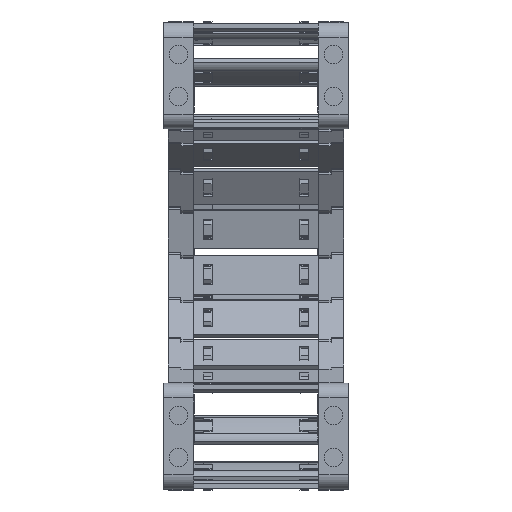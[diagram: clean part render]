
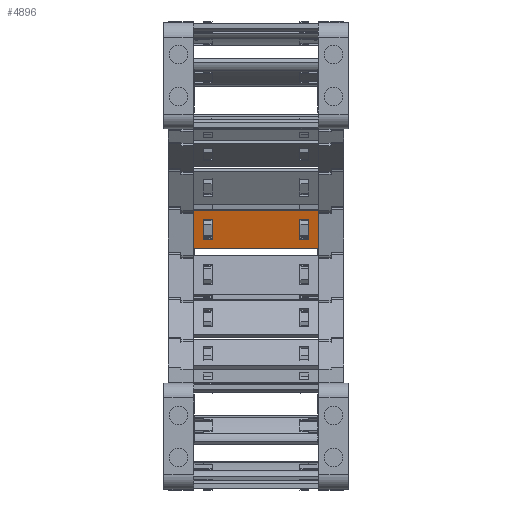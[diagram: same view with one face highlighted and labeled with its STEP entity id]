
A CAD part, left-side view. The second image highlights one B-rep face of the part: STEP entity #4896.
In plain terms, the highlighted planar face has unit normal (-0.976, 0, -0.216) as drawn and (0, 1, 0) by its records, which use the part's own axes.
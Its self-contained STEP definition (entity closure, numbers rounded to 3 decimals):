
#4022=DIRECTION('',(0.,0.,1.));
#4023=VECTOR('',#4022,15.8);
#4024=CARTESIAN_POINT('',(35.74,1.5,-7.9));
#4025=LINE('',#4024,#4023);
#4029=DIRECTION('',(-1.,0.,0.));
#4030=VECTOR('',#4029,50.5);
#4031=CARTESIAN_POINT('',(35.74,1.5,7.9));
#4032=LINE('',#4031,#4030);
#4036=DIRECTION('',(0.,0.,-1.));
#4037=VECTOR('',#4036,15.8);
#4038=CARTESIAN_POINT('',(-14.76,1.5,7.9));
#4039=LINE('',#4038,#4037);
#4043=DIRECTION('',(1.,0.,0.));
#4044=VECTOR('',#4043,3.648);
#4045=CARTESIAN_POINT('',(28.122,1.5,4.075));
#4046=LINE('',#4045,#4044);
#4050=DIRECTION('',(0.,0.,-1.));
#4051=VECTOR('',#4050,8.15);
#4052=CARTESIAN_POINT('',(31.77,1.5,4.075));
#4053=LINE('',#4052,#4051);
#4057=DIRECTION('',(-1.,0.,0.));
#4058=VECTOR('',#4057,3.648);
#4059=CARTESIAN_POINT('',(31.77,1.5,-4.075));
#4060=LINE('',#4059,#4058);
#4064=DIRECTION('',(0.,0.,-1.));
#4065=VECTOR('',#4064,8.15);
#4066=CARTESIAN_POINT('',(-7.142,1.5,4.075));
#4067=LINE('',#4066,#4065);
#4071=DIRECTION('',(-1.,0.,0.));
#4072=VECTOR('',#4071,3.648);
#4073=CARTESIAN_POINT('',(-7.142,1.5,-4.075));
#4074=LINE('',#4073,#4072);
#4078=DIRECTION('',(0.,0.,1.));
#4079=VECTOR('',#4078,8.15);
#4080=CARTESIAN_POINT('',(-10.79,1.5,-4.075));
#4081=LINE('',#4080,#4079);
#4085=DIRECTION('',(1.,0.,0.));
#4086=VECTOR('',#4085,3.648);
#4087=CARTESIAN_POINT('',(-10.79,1.5,4.075));
#4088=LINE('',#4087,#4086);
#4099=DIRECTION('',(-1.,0.,0.));
#4100=VECTOR('',#4099,50.5);
#4101=CARTESIAN_POINT('',(35.74,1.5,-7.9));
#4102=LINE('',#4101,#4100);
#4307=DIRECTION('',(0.,0.,-1.));
#4308=VECTOR('',#4307,8.15);
#4309=CARTESIAN_POINT('',(28.122,1.5,4.075));
#4310=LINE('',#4309,#4308);
#4606=CARTESIAN_POINT('',(31.77,1.5,4.075));
#4607=VERTEX_POINT('',#4606);
#4608=CARTESIAN_POINT('',(28.122,1.5,4.075));
#4609=VERTEX_POINT('',#4608);
#4650=CARTESIAN_POINT('',(28.122,1.5,-4.075));
#4651=VERTEX_POINT('',#4650);
#4652=CARTESIAN_POINT('',(31.77,1.5,-4.075));
#4653=VERTEX_POINT('',#4652);
#4654=CARTESIAN_POINT('',(35.74,1.5,7.9));
#4656=VERTEX_POINT('',#4654);
#4658=CARTESIAN_POINT('',(35.74,1.5,-7.9));
#4659=VERTEX_POINT('',#4658);
#4682=CARTESIAN_POINT('',(-7.142,1.5,4.075));
#4683=CARTESIAN_POINT('',(-7.142,1.5,-4.075));
#4684=VERTEX_POINT('',#4682);
#4685=VERTEX_POINT('',#4683);
#4686=CARTESIAN_POINT('',(-10.79,1.5,-4.075));
#4687=VERTEX_POINT('',#4686);
#4688=CARTESIAN_POINT('',(-10.79,1.5,4.075));
#4689=VERTEX_POINT('',#4688);
#4690=CARTESIAN_POINT('',(-14.76,1.5,7.9));
#4691=VERTEX_POINT('',#4690);
#4694=CARTESIAN_POINT('',(-14.76,1.5,-7.9));
#4695=VERTEX_POINT('',#4694);
#4865=CARTESIAN_POINT('',(67.48,1.5,10.061));
#4866=DIRECTION('',(0.,-1.,0.));
#4867=DIRECTION('',(0.,0.,-1.));
#4868=AXIS2_PLACEMENT_3D('',#4865,#4866,#4867);
#4869=PLANE('',#4868);
#4870=ORIENTED_EDGE('',*,*,#4768,.T.);
#4871=ORIENTED_EDGE('',*,*,#4806,.T.);
#4872=ORIENTED_EDGE('',*,*,#4831,.T.);
#4874=ORIENTED_EDGE('',*,*,#4873,.F.);
#4875=EDGE_LOOP('',(#4870,#4871,#4872,#4874));
#4876=FACE_OUTER_BOUND('',#4875,.F.);
#4878=ORIENTED_EDGE('',*,*,#4877,.F.);
#4879=ORIENTED_EDGE('',*,*,#4707,.T.);
#4881=ORIENTED_EDGE('',*,*,#4880,.T.);
#4883=ORIENTED_EDGE('',*,*,#4882,.T.);
#4884=EDGE_LOOP('',(#4878,#4879,#4881,#4883));
#4885=FACE_BOUND('',#4884,.F.);
#4887=ORIENTED_EDGE('',*,*,#4886,.T.);
#4889=ORIENTED_EDGE('',*,*,#4888,.T.);
#4891=ORIENTED_EDGE('',*,*,#4890,.T.);
#4893=ORIENTED_EDGE('',*,*,#4892,.T.);
#4894=EDGE_LOOP('',(#4887,#4889,#4891,#4893));
#4895=FACE_BOUND('',#4894,.F.);
#4896=ADVANCED_FACE('',(#4876,#4885,#4895),#4869,.F.);
#4707=EDGE_CURVE('',#4609,#4607,#4046,.T.);
#4768=EDGE_CURVE('',#4659,#4656,#4025,.T.);
#4806=EDGE_CURVE('',#4656,#4691,#4032,.T.);
#4831=EDGE_CURVE('',#4691,#4695,#4039,.T.);
#4873=EDGE_CURVE('',#4659,#4695,#4102,.T.);
#4877=EDGE_CURVE('',#4609,#4651,#4310,.T.);
#4880=EDGE_CURVE('',#4607,#4653,#4053,.T.);
#4882=EDGE_CURVE('',#4653,#4651,#4060,.T.);
#4886=EDGE_CURVE('',#4684,#4685,#4067,.T.);
#4888=EDGE_CURVE('',#4685,#4687,#4074,.T.);
#4890=EDGE_CURVE('',#4687,#4689,#4081,.T.);
#4892=EDGE_CURVE('',#4689,#4684,#4088,.T.);
